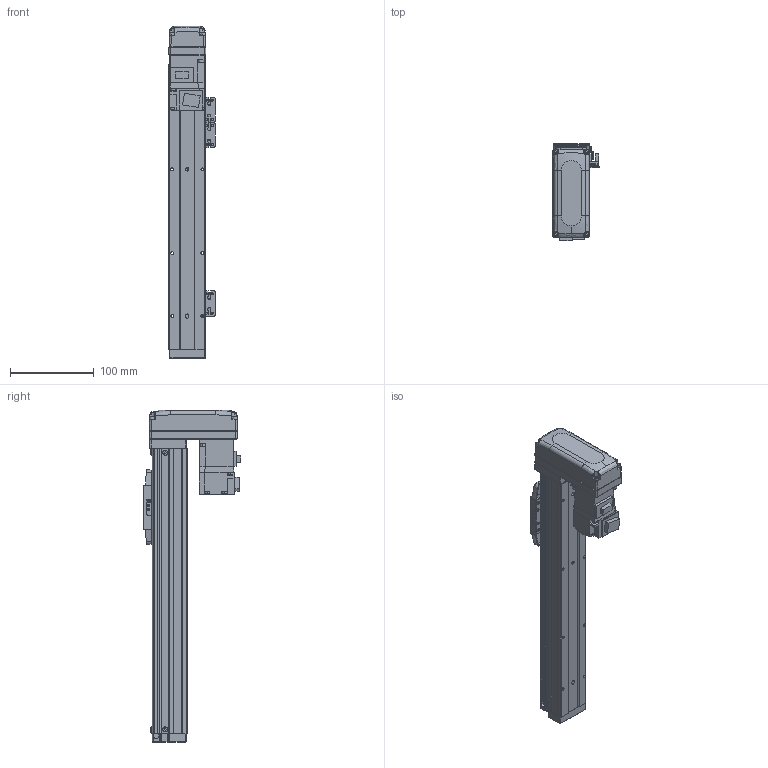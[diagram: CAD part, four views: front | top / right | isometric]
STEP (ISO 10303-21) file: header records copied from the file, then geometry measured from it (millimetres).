
FILE_DESCRIPTION (( 'STEP AP203' ), '1' );
FILE_NAME ('BTH40-200-BM-M05-C4.step', '2021-12-16T00:18:15', ( '微软用户' ), ( '微软中国' ), 'SwSTEP 2.0', 'SolidWorks 2020', '' );
FILE_SCHEMA (( 'CONFIG_CONTROL_DESIGN' ));
Length unit declared in the file: millimetre
Products named in the file (19): BTH40-001-50_BTH40-001-200; BTH50-024; HG-KR13; BTH40-003; GBT 70.1-M3℅6; GBT 70.3-M3℅6; BTH40-006; GBT96.1-2002 3×0.8; BTH40-027-1; BTH-M3X5X6; BTH40-022; BTH50-026; GBT70.1-2000 M3×16; GBT 70.1-M2.5×6; BTH40-200-BM-M05-C4; BTH50-028; BTH40-004; BTH50-023; BTH40-013
Assembly tree (47 placements, depth 2):
  BTH40-200-BM-M05-C4
    BTH40-001-50_BTH40-001-200
    BTH40-003
    BTH40-006
    BTH-M3X5X6  x8
    GBT70.1-2000 M3×16  x4
    BTH50-028  x2
    BTH50-023  x3
    BTH50-024  x3
    GBT 70.1-M3℅6  x6
    GBT96.1-2002 3×0.8  x6
    BTH40-022
    GBT 70.1-M2.5×6  x2
    BTH40-004
    BTH40-013
    HG-KR13
    GBT 70.3-M3℅6  x4
    BTH40-027-1
    BTH50-026
Bounding box: 55.2 x 115.8 x 396 mm (x, y, z)
Volume: 835990 mm3; surface area: 166402.3 mm2
Topology: 49 solids, 49 shells, 1971 faces, 4623 edges, 2842 vertices
Faces by surface type: plane 1052, cylinder 483, cone 270, torus 128, bspline 34, sphere 4
Entity records: 39247 total; most frequent: CARTESIAN_POINT 7522, DIRECTION 6140, ORIENTED_EDGE 5892, EDGE_CURVE 2946, AXIS2_PLACEMENT_3D 2095, LINE 1950, VECTOR 1950, VERTEX_POINT 1829
